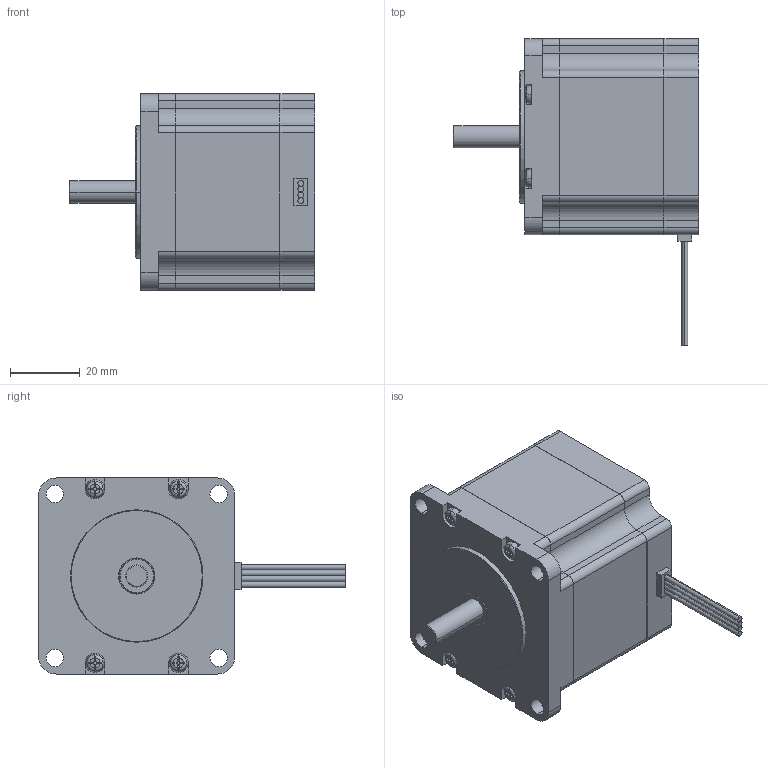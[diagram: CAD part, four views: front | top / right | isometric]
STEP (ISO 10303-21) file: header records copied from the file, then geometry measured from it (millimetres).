
FILE_DESCRIPTION (( 'STEP AP203' ), '1' );
FILE_NAME ('C-57STM02_203.STEP', '2021-08-06T09:03:33', ( '' ), ( '' ), 'SwSTEP 2.0', 'SolidWorks 2017', '' );
FILE_SCHEMA (( 'CONFIG_CONTROL_DESIGN' ));
Length unit declared in the file: millimetre
Products named in the file (1): C-57STM02_203
Bounding box: 70.6 x 88.2 x 56.4 mm (x, y, z)
Volume: 146761.4 mm3; surface area: 18519.1 mm2
Topology: 1 solids, 1 shells, 374 faces, 1024 edges, 670 vertices
Faces by surface type: plane 148, cylinder 106, cone 64, torus 56
Entity records: 12563 total; most frequent: CARTESIAN_POINT 3021, ORIENTED_EDGE 2048, DIRECTION 1956, EDGE_CURVE 1024, AXIS2_PLACEMENT_3D 765, VERTEX_POINT 670, LINE 426, VECTOR 426
